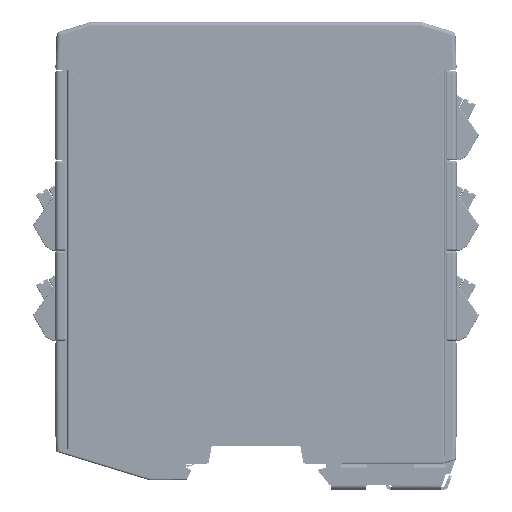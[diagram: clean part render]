
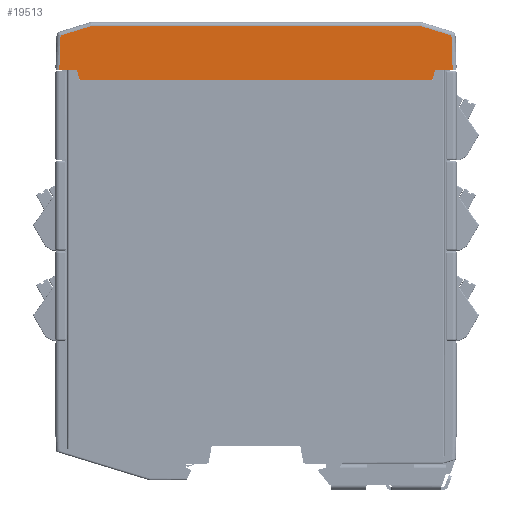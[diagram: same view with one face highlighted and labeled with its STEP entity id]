
A CAD part, front view. The second image highlights one B-rep face of the part: STEP entity #19513.
In plain terms, the highlighted planar face has unit normal (0, -1, 0).
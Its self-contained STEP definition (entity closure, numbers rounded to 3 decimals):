
#19513 = ADVANCED_FACE ( 'NONE', ( #602396 ), #78438, .F. ) ;
#22888 = CARTESIAN_POINT ( 'NONE',  ( -93.951, 0., 101.5 ) ) ;
#35301 = EDGE_CURVE ( 'NONE', #183421, #177046, #375851, .T. ) ;
#64532 = CARTESIAN_POINT ( 'NONE',  ( -6.049, 0., 101.5 ) ) ;
#76553 = DIRECTION ( 'NONE',  ( 0.956, 0., -0.292 ) ) ;
#78438 = PLANE ( 'NONE',  #504978 ) ;
#79786 = EDGE_LOOP ( 'NONE', ( #635910, #531478, #615031, #341017, #326709, #483055, #293662, #685076, #219402, #323149 ) ) ;
#103198 = VERTEX_POINT ( 'NONE', #676228 ) ;
#107477 = LINE ( 'NONE', #582817, #369381 ) ;
#124391 = VECTOR ( 'NONE', #286415, 1000. ) ;
#130567 = CARTESIAN_POINT ( 'NONE',  ( -61.25, 0., 107.025 ) ) ;
#131937 = EDGE_CURVE ( 'NONE', #650193, #228948, #359461, .T. ) ;
#140233 = CARTESIAN_POINT ( 'NONE',  ( -5.3, 0., 103.95 ) ) ;
#153645 = CARTESIAN_POINT ( 'NONE',  ( -5.3, 0., 103.95 ) ) ;
#153747 = EDGE_CURVE ( 'NONE', #179122, #650193, #319745, .T. ) ;
#171776 = CARTESIAN_POINT ( 'NONE',  ( -61.25, 0., 103.95 ) ) ;
#177046 = VERTEX_POINT ( 'NONE', #240988 ) ;
#179122 = VERTEX_POINT ( 'NONE', #64532 ) ;
#183421 = VERTEX_POINT ( 'NONE', #533632 ) ;
#187811 = CARTESIAN_POINT ( 'NONE',  ( -8.999, 0., 114.85 ) ) ;
#193927 = VERTEX_POINT ( 'NONE', #482537 ) ;
#216362 = CARTESIAN_POINT ( 'NONE',  ( -1.281, 0., 112.49 ) ) ;
#216788 = DIRECTION ( 'NONE',  ( 0.956, 0., 0.292 ) ) ;
#219402 = ORIENTED_EDGE ( 'NONE', *, *, #35301, .F. ) ;
#220710 = LINE ( 'NONE', #536392, #555898 ) ;
#228948 = VERTEX_POINT ( 'NONE', #476584 ) ;
#231217 = DIRECTION ( 'NONE',  ( 0., 1., 0. ) ) ;
#234375 = LINE ( 'NONE', #435607, #124391 ) ;
#240988 = CARTESIAN_POINT ( 'NONE',  ( -0.983, 0., 103.95 ) ) ;
#248549 = VECTOR ( 'NONE', #580152, 1000. ) ;
#255342 = CARTESIAN_POINT ( 'NONE',  ( -93.951, 0., 101.5 ) ) ;
#263210 = VECTOR ( 'NONE', #424483, 1000. ) ;
#266407 = EDGE_CURVE ( 'NONE', #103198, #279558, #234375, .T. ) ;
#279558 = VERTEX_POINT ( 'NONE', #677272 ) ;
#286415 = DIRECTION ( 'NONE',  ( 0.035, 0., 0.999 ) ) ;
#293662 = ORIENTED_EDGE ( 'NONE', *, *, #320798, .F. ) ;
#309748 = DIRECTION ( 'NONE',  ( -0.292, 0., -0.956 ) ) ;
#319745 = LINE ( 'NONE', #427293, #248549 ) ;
#320798 = EDGE_CURVE ( 'NONE', #476720, #179122, #566619, .T. ) ;
#323149 = ORIENTED_EDGE ( 'NONE', *, *, #575100, .F. ) ;
#326709 = ORIENTED_EDGE ( 'NONE', *, *, #131937, .F. ) ;
#340212 = LINE ( 'NONE', #551828, #608385 ) ;
#341017 = ORIENTED_EDGE ( 'NONE', *, *, #645677, .F. ) ;
#345428 = VECTOR ( 'NONE', #309748, 1000. ) ;
#359461 = LINE ( 'NONE', #255342, #373833 ) ;
#369381 = VECTOR ( 'NONE', #371146, 1000. ) ;
#369481 = LINE ( 'NONE', #636414, #455579 ) ;
#371146 = DIRECTION ( 'NONE',  ( -1., 0., 0. ) ) ;
#373833 = VECTOR ( 'NONE', #529213, 1000. ) ;
#375851 = LINE ( 'NONE', #216362, #263210 ) ;
#387157 = DIRECTION ( 'NONE',  ( 1., 0., 0. ) ) ;
#424483 = DIRECTION ( 'NONE',  ( 0.035, 0., -0.999 ) ) ;
#427293 = CARTESIAN_POINT ( 'NONE',  ( -61.25, 0., 101.5 ) ) ;
#435607 = CARTESIAN_POINT ( 'NONE',  ( -99.017, 0., 103.95 ) ) ;
#435871 = DIRECTION ( 'NONE',  ( 0., 0., 1. ) ) ;
#438714 = DIRECTION ( 'NONE',  ( -1., 0., 0. ) ) ;
#447969 = VERTEX_POINT ( 'NONE', #187811 ) ;
#455579 = VECTOR ( 'NONE', #216788, 1000. ) ;
#476584 = CARTESIAN_POINT ( 'NONE',  ( -94.7, 0., 103.95 ) ) ;
#476720 = VERTEX_POINT ( 'NONE', #140233 ) ;
#482537 = CARTESIAN_POINT ( 'NONE',  ( -91.001, 0., 114.85 ) ) ;
#483055 = ORIENTED_EDGE ( 'NONE', *, *, #153747, .F. ) ;
#504978 = AXIS2_PLACEMENT_3D ( 'NONE', #130567, #231217, #435871 ) ;
#512344 = EDGE_CURVE ( 'NONE', #279558, #193927, #369481, .T. ) ;
#529213 = DIRECTION ( 'NONE',  ( -0.292, 0., 0.956 ) ) ;
#531478 = ORIENTED_EDGE ( 'NONE', *, *, #512344, .F. ) ;
#533632 = CARTESIAN_POINT ( 'NONE',  ( -1.281, 0., 112.49 ) ) ;
#536392 = CARTESIAN_POINT ( 'NONE',  ( -61.25, 0., 114.85 ) ) ;
#539356 = VECTOR ( 'NONE', #438714, 1000. ) ;
#551828 = CARTESIAN_POINT ( 'NONE',  ( -8.999, 0., 114.85 ) ) ;
#555898 = VECTOR ( 'NONE', #387157, 1000. ) ;
#566619 = LINE ( 'NONE', #153645, #345428 ) ;
#575100 = EDGE_CURVE ( 'NONE', #447969, #183421, #340212, .T. ) ;
#577917 = EDGE_CURVE ( 'NONE', #177046, #476720, #107477, .T. ) ;
#580152 = DIRECTION ( 'NONE',  ( -1., 0., 0. ) ) ;
#582817 = CARTESIAN_POINT ( 'NONE',  ( -61.25, 0., 103.95 ) ) ;
#601821 = LINE ( 'NONE', #171776, #539356 ) ;
#602396 = FACE_OUTER_BOUND ( 'NONE', #79786, .T. ) ;
#608385 = VECTOR ( 'NONE', #76553, 1000. ) ;
#615031 = ORIENTED_EDGE ( 'NONE', *, *, #266407, .F. ) ;
#635910 = ORIENTED_EDGE ( 'NONE', *, *, #640899, .F. ) ;
#636414 = CARTESIAN_POINT ( 'NONE',  ( -98.719, 0., 112.49 ) ) ;
#640899 = EDGE_CURVE ( 'NONE', #193927, #447969, #220710, .T. ) ;
#645677 = EDGE_CURVE ( 'NONE', #228948, #103198, #601821, .T. ) ;
#650193 = VERTEX_POINT ( 'NONE', #22888 ) ;
#676228 = CARTESIAN_POINT ( 'NONE',  ( -99.017, 0., 103.95 ) ) ;
#677272 = CARTESIAN_POINT ( 'NONE',  ( -98.719, 0., 112.49 ) ) ;
#685076 = ORIENTED_EDGE ( 'NONE', *, *, #577917, .F. ) ;
